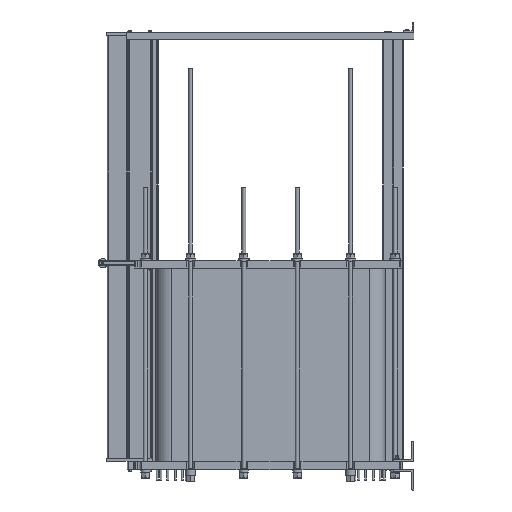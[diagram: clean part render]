
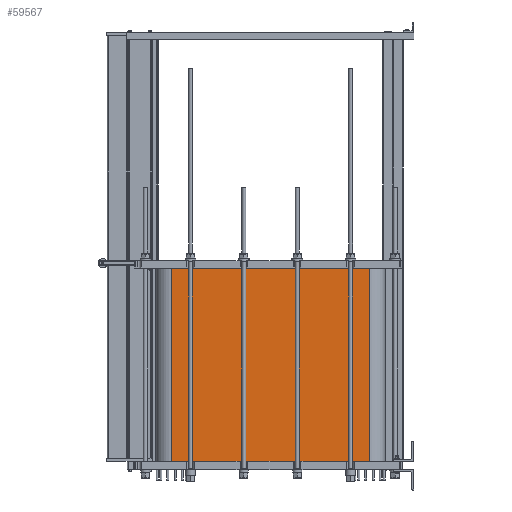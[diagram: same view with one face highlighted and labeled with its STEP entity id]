
A CAD part, left-side view. The second image highlights one B-rep face of the part: STEP entity #59567.
In plain terms, the highlighted planar face has unit normal (-1, 0, 0).
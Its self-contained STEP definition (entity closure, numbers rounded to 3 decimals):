
#44284=CARTESIAN_POINT('',(-375.0,-967.0,0.0));
#44285=VERTEX_POINT('',#44284);
#44293=CARTESIAN_POINT('',(-375.,967.0,0.0));
#44294=VERTEX_POINT('',#44293);
#44295=CARTESIAN_POINT('',(-375.0,-967.0,0.0));
#44296=DIRECTION('',(0.0,1.0,0.0));
#44297=VECTOR('',#44296,1934.0);
#44298=LINE('',#44295,#44297);
#44299=EDGE_CURVE('',#44285,#44294,#44298,.T.);
#59179=CARTESIAN_POINT('',(-375.,967.0,1895.0));
#59180=VERTEX_POINT('',#59179);
#59188=CARTESIAN_POINT('',(-375.0,-967.0,1895.0));
#59189=VERTEX_POINT('',#59188);
#59190=CARTESIAN_POINT('',(-375.,967.0,1895.0));
#59191=DIRECTION('',(0.0,-1.0,0.0));
#59192=VECTOR('',#59191,1934.0);
#59193=LINE('',#59190,#59192);
#59194=EDGE_CURVE('',#59180,#59189,#59193,.T.);
#59546=CARTESIAN_POINT('',(-375.0,-967.0,0.0));
#59547=DIRECTION('',(-1.0,0.0,0.0));
#59548=DIRECTION('',(0.0,0.0,1.0));
#59549=AXIS2_PLACEMENT_3D('',#59546,#59547,#59548);
#59550=PLANE('',#59549);
#59551=ORIENTED_EDGE('',*,*,#59194,.F.);
#59552=CARTESIAN_POINT('',(-375.,967.0,0.0));
#59553=DIRECTION('',(0.0,0.0,1.0));
#59554=VECTOR('',#59553,1895.0);
#59555=LINE('',#59552,#59554);
#59556=EDGE_CURVE('',#44294,#59180,#59555,.T.);
#59557=ORIENTED_EDGE('',*,*,#59556,.F.);
#59558=ORIENTED_EDGE('',*,*,#44299,.F.);
#59559=CARTESIAN_POINT('',(-375.0,-967.0,0.0));
#59560=DIRECTION('',(0.0,0.0,1.0));
#59561=VECTOR('',#59560,1895.0);
#59562=LINE('',#59559,#59561);
#59563=EDGE_CURVE('',#44285,#59189,#59562,.T.);
#59564=ORIENTED_EDGE('',*,*,#59563,.T.);
#59565=EDGE_LOOP('',(#59551,#59557,#59558,#59564));
#59566=FACE_OUTER_BOUND('',#59565,.T.);
#59567=ADVANCED_FACE('',(#59566),#59550,.T.);
